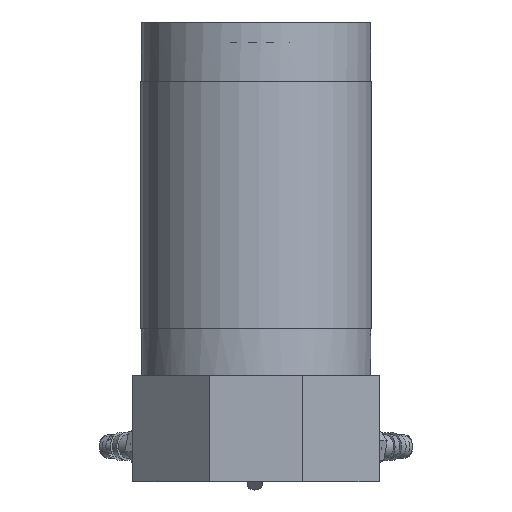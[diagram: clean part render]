
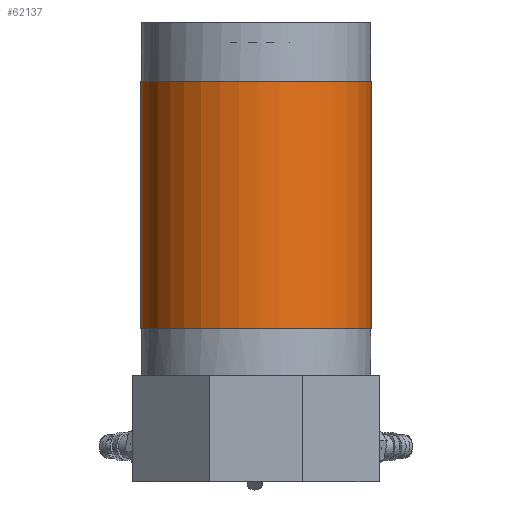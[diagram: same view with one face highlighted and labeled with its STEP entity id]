
A CAD part, left-side view. The second image highlights one B-rep face of the part: STEP entity #62137.
In plain terms, the highlighted cylindrical face has radius 20.765 mm (diameter 41.529 mm), a full revolution.
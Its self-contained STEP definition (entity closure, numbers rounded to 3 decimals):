
#9414=FACE_OUTER_BOUND('',#13371,.T.);
#13371=EDGE_LOOP('',(#50704,#50705,#50706,#50707));
#18209=CIRCLE('',#68046,20.765);
#18210=CIRCLE('',#68047,20.765);
#19557=LINE('',#171624,#21322);
#21322=VECTOR('',#79906,20.765);
#26171=VERTEX_POINT('',#171621);
#26172=VERTEX_POINT('',#171623);
#34569=EDGE_CURVE('',#26171,#26171,#18209,.T.);
#34570=EDGE_CURVE('',#26171,#26172,#19557,.T.);
#34571=EDGE_CURVE('',#26172,#26172,#18210,.T.);
#50704=ORIENTED_EDGE('',*,*,#34569,.T.);
#50705=ORIENTED_EDGE('',*,*,#34570,.T.);
#50706=ORIENTED_EDGE('',*,*,#34571,.F.);
#50707=ORIENTED_EDGE('',*,*,#34570,.F.);
#55033=CYLINDRICAL_SURFACE('',#68045,20.765);
#62137=ADVANCED_FACE('',(#9414),#55033,.T.);
#68045=AXIS2_PLACEMENT_3D('',#171620,#79902,#79903);
#68046=AXIS2_PLACEMENT_3D('',#171622,#79904,#79905);
#68047=AXIS2_PLACEMENT_3D('',#171625,#79907,#79908);
#79902=DIRECTION('center_axis',(0.,0.,
1.));
#79903=DIRECTION('ref_axis',(0.474,0.881,0.));
#79904=DIRECTION('center_axis',(0.,0.,
-1.));
#79905=DIRECTION('ref_axis',(0.474,0.881,0.));
#79906=DIRECTION('',(0.,0.,-1.));
#79907=DIRECTION('center_axis',(0.,0.,
-1.));
#79908=DIRECTION('ref_axis',(0.474,0.881,0.));
#171620=CARTESIAN_POINT('Origin',(0.,0.,27.456));
#171621=CARTESIAN_POINT('',(-9.84,-18.285,71.906));
#171622=CARTESIAN_POINT('Origin',(0.,0.,
71.906));
#171623=CARTESIAN_POINT('',(-9.84,-18.285,27.456));
#171624=CARTESIAN_POINT('',(-9.84,-18.285,27.456));
#171625=CARTESIAN_POINT('Origin',(0.,0.,27.456));
